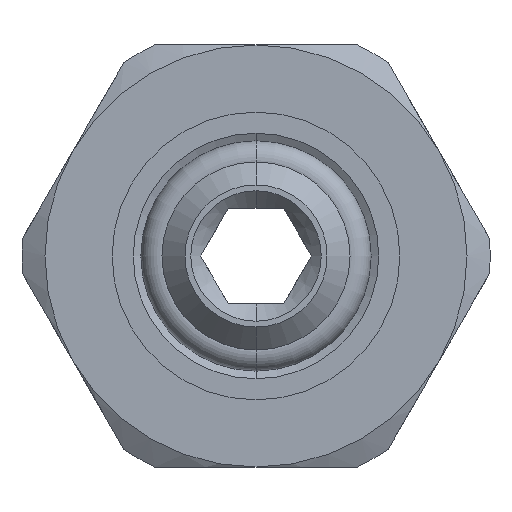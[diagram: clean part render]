
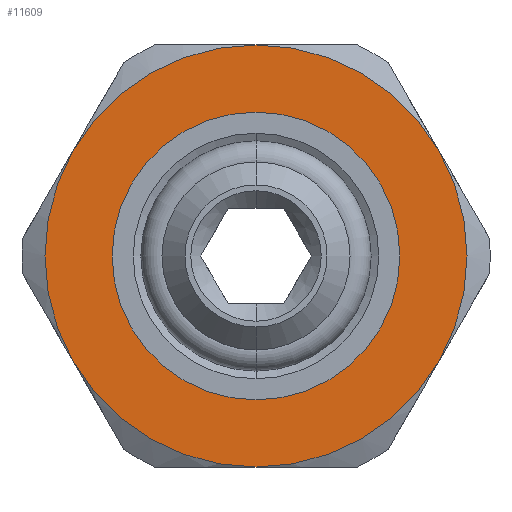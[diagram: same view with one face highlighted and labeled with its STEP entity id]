
A CAD part, front view. The second image highlights one B-rep face of the part: STEP entity #11609.
In plain terms, the highlighted planar face has unit normal (0, -1, 0).
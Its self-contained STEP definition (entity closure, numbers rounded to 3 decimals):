
#23 = EDGE_LOOP ( 'NONE', ( #6081, #12193, #12821, #10766, #7839, #8463 ) ) ;
#101 = EDGE_CURVE ( 'NONE', #4547, #3650, #11858, .T. ) ;
#132 = DIRECTION ( 'NONE',  ( 0., -1., 0. ) ) ;
#1015 = CARTESIAN_POINT ( 'NONE',  ( 0., 23.196, -3.75 ) ) ;
#1258 = DIRECTION ( 'NONE',  ( 0., -1., 0. ) ) ;
#1681 = AXIS2_PLACEMENT_3D ( 'NONE', #7225, #1258, #8266 ) ;
#1728 = DIRECTION ( 'NONE',  ( 0., -1., 0. ) ) ;
#1765 = FACE_BOUND ( 'NONE', #4938, .T. ) ;
#1831 = EDGE_CURVE ( 'NONE', #3266, #5641, #10710, .T. ) ;
#2128 = PLANE ( 'NONE',  #5905 ) ;
#2466 = VERTEX_POINT ( 'NONE', #3525 ) ;
#2611 = DIRECTION ( 'NONE',  ( 0., -1., 0. ) ) ;
#3006 = AXIS2_PLACEMENT_3D ( 'NONE', #5274, #12411, #6277 ) ;
#3161 = CIRCLE ( 'NONE', #5243, 5.5 ) ;
#3266 = VERTEX_POINT ( 'NONE', #1015 ) ;
#3525 = CARTESIAN_POINT ( 'NONE',  ( 4.763, 23.196, 2.75 ) ) ;
#3626 = CARTESIAN_POINT ( 'NONE',  ( 4.763, 23.196, -2.75 ) ) ;
#3650 = VERTEX_POINT ( 'NONE', #5975 ) ;
#3828 = CARTESIAN_POINT ( 'NONE',  ( 0., 23.196, 0. ) ) ;
#3839 = CARTESIAN_POINT ( 'NONE',  ( 0., 23.196, 0. ) ) ;
#4081 = ORIENTED_EDGE ( 'NONE', *, *, #1831, .F. ) ;
#4129 = FACE_OUTER_BOUND ( 'NONE', #23, .T. ) ;
#4362 = CARTESIAN_POINT ( 'NONE',  ( 0., 23.196, 0. ) ) ;
#4547 = VERTEX_POINT ( 'NONE', #5703 ) ;
#4811 = DIRECTION ( 'NONE',  ( 0., 0., -1. ) ) ;
#4823 = DIRECTION ( 'NONE',  ( 0., 0., -1. ) ) ;
#4938 = EDGE_LOOP ( 'NONE', ( #4081, #13003 ) ) ;
#5004 = CIRCLE ( 'NONE', #11823, 5.5 ) ;
#5044 = CARTESIAN_POINT ( 'NONE',  ( 0., 23.196, 5.5 ) ) ;
#5243 = AXIS2_PLACEMENT_3D ( 'NONE', #3839, #10944, #4823 ) ;
#5274 = CARTESIAN_POINT ( 'NONE',  ( 0., 23.196, 0. ) ) ;
#5381 = DIRECTION ( 'NONE',  ( 0., 0., -1. ) ) ;
#5641 = VERTEX_POINT ( 'NONE', #9032 ) ;
#5703 = CARTESIAN_POINT ( 'NONE',  ( -4.763, 23.196, 2.75 ) ) ;
#5905 = AXIS2_PLACEMENT_3D ( 'NONE', #6162, #132, #7158 ) ;
#5975 = CARTESIAN_POINT ( 'NONE',  ( -4.763, 23.196, -2.75 ) ) ;
#6081 = ORIENTED_EDGE ( 'NONE', *, *, #10334, .T. ) ;
#6162 = CARTESIAN_POINT ( 'NONE',  ( 3.75, 23.196, 0. ) ) ;
#6233 = VERTEX_POINT ( 'NONE', #5044 ) ;
#6277 = DIRECTION ( 'NONE',  ( 0., 0., -1. ) ) ;
#6383 = AXIS2_PLACEMENT_3D ( 'NONE', #8613, #2611, #9663 ) ;
#6636 = CIRCLE ( 'NONE', #1681, 3.75 ) ;
#6857 = CARTESIAN_POINT ( 'NONE',  ( 0., 23.196, -5.5 ) ) ;
#7058 = AXIS2_PLACEMENT_3D ( 'NONE', #7735, #1728, #8763 ) ;
#7071 = CIRCLE ( 'NONE', #6383, 5.5 ) ;
#7158 = DIRECTION ( 'NONE',  ( 0., 0., -1. ) ) ;
#7225 = CARTESIAN_POINT ( 'NONE',  ( 0., 23.196, 0. ) ) ;
#7316 = EDGE_CURVE ( 'NONE', #5641, #3266, #6636, .T. ) ;
#7341 = EDGE_CURVE ( 'NONE', #3650, #10391, #9329, .T. ) ;
#7356 = CIRCLE ( 'NONE', #12750, 5.5 ) ;
#7735 = CARTESIAN_POINT ( 'NONE',  ( 0., 23.196, 0. ) ) ;
#7839 = ORIENTED_EDGE ( 'NONE', *, *, #101, .T. ) ;
#8266 = DIRECTION ( 'NONE',  ( 0., 0., -1. ) ) ;
#8463 = ORIENTED_EDGE ( 'NONE', *, *, #7341, .T. ) ;
#8588 = CARTESIAN_POINT ( 'NONE',  ( 0., 23.196, 0. ) ) ;
#8613 = CARTESIAN_POINT ( 'NONE',  ( 0., 23.196, 0. ) ) ;
#8763 = DIRECTION ( 'NONE',  ( 0., 0., -1. ) ) ;
#9032 = CARTESIAN_POINT ( 'NONE',  ( 0., 23.196, 3.75 ) ) ;
#9329 = CIRCLE ( 'NONE', #3006, 5.5 ) ;
#9622 = AXIS2_PLACEMENT_3D ( 'NONE', #8588, #11236, #11868 ) ;
#9663 = DIRECTION ( 'NONE',  ( 0., 0., -1. ) ) ;
#9864 = EDGE_CURVE ( 'NONE', #9881, #2466, #7071, .T. ) ;
#9881 = VERTEX_POINT ( 'NONE', #3626 ) ;
#10334 = EDGE_CURVE ( 'NONE', #10391, #9881, #7356, .T. ) ;
#10391 = VERTEX_POINT ( 'NONE', #6857 ) ;
#10710 = CIRCLE ( 'NONE', #7058, 3.75 ) ;
#10766 = ORIENTED_EDGE ( 'NONE', *, *, #13126, .T. ) ;
#10932 = DIRECTION ( 'NONE',  ( 0., -1., 0. ) ) ;
#10944 = DIRECTION ( 'NONE',  ( 0., -1., 0. ) ) ;
#11236 = DIRECTION ( 'NONE',  ( 0., -1., 0. ) ) ;
#11500 = DIRECTION ( 'NONE',  ( 0., -1., 0. ) ) ;
#11609 = ADVANCED_FACE ( 'NONE', ( #4129, #1765 ), #2128, .T. ) ;
#11625 = EDGE_CURVE ( 'NONE', #2466, #6233, #3161, .T. ) ;
#11823 = AXIS2_PLACEMENT_3D ( 'NONE', #4362, #11500, #5381 ) ;
#11858 = CIRCLE ( 'NONE', #9622, 5.5 ) ;
#11868 = DIRECTION ( 'NONE',  ( 0., 0., -1. ) ) ;
#12193 = ORIENTED_EDGE ( 'NONE', *, *, #9864, .T. ) ;
#12411 = DIRECTION ( 'NONE',  ( 0., -1., 0. ) ) ;
#12750 = AXIS2_PLACEMENT_3D ( 'NONE', #3828, #10932, #4811 ) ;
#12821 = ORIENTED_EDGE ( 'NONE', *, *, #11625, .T. ) ;
#13003 = ORIENTED_EDGE ( 'NONE', *, *, #7316, .F. ) ;
#13126 = EDGE_CURVE ( 'NONE', #6233, #4547, #5004, .T. ) ;
